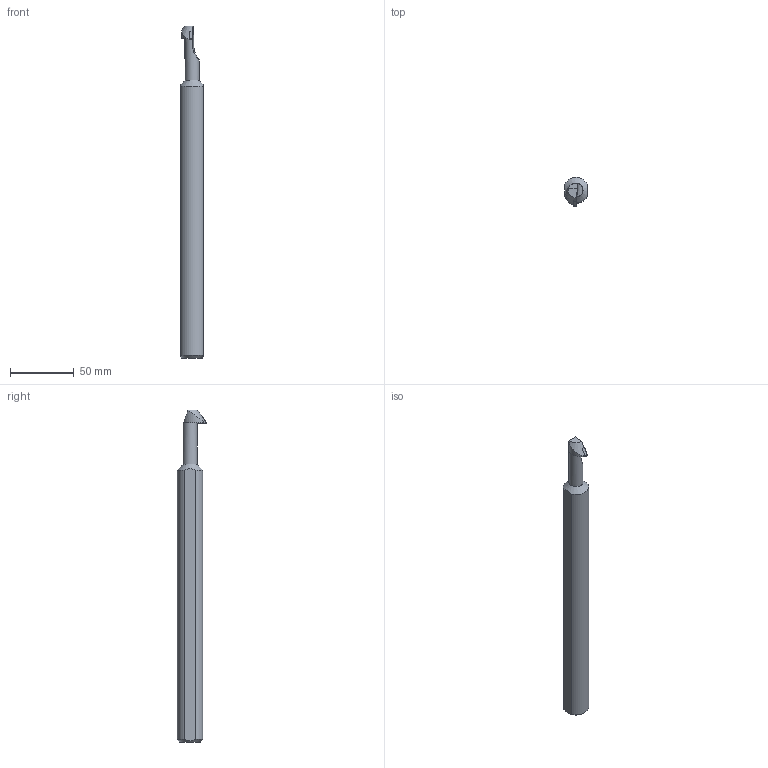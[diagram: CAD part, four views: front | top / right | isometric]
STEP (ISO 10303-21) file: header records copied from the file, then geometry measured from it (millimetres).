
FILE_DESCRIPTION(/* description */ (''),/* implementation_level */ '2;1');
FILE_NAME(/* name */ 'A20S-SDZCR-07-HAAS.stp',/* time_stamp */ '2021-09-29T10:01:43+09:00',/* author */ (''),/* organization */ (''),/* preprocessor_version */ 'ST-DEVELOPER v11',/* originating_system */ 'SIEMENS UGS NX 6.0',/* authorisation */ '');
FILE_SCHEMA (('CONFIG_CONTROL_DESIGN'));
Length unit declared in the file: millimetre
Products named in the file (1): userA9FD65mt
Bounding box: 18 x 22.96 x 260.6 mm (x, y, z)
Volume: 64393.7 mm3; surface area: 19172 mm2
Topology: 2 solids, 2 shells, 26 faces, 62 edges, 41 vertices
Faces by surface type: plane 13, cone 6, cylinder 6, bspline 1
Full cylindrical faces by diameter (mm): 4 x1, 5 x1, 11 x1
Entity records: 860 total; most frequent: CARTESIAN_POINT 216, DIRECTION 114, ORIENTED_EDGE 106, EDGE_CURVE 53, AXIS2_PLACEMENT_3D 45, VERTEX_POINT 37, EDGE_LOOP 34, ADVANCED_FACE 26
